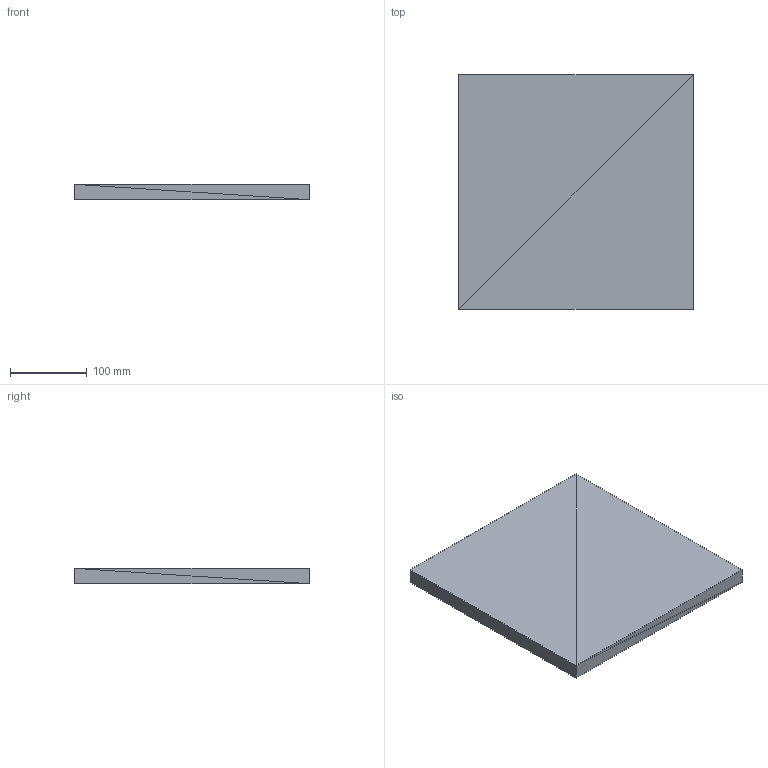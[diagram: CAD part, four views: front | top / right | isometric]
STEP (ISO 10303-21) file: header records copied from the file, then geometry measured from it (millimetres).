
FILE_DESCRIPTION(('ISINAC STEP AP214'),'2;1');
FILE_NAME('ISINAC_C.305_20mm_ADHESIVO','2026-05-03T10:49:19',('ISINAC'),('www.isinac.com'),'ISINAC BIM Generator 1.0','','');
FILE_SCHEMA(('AUTOMOTIVE_DESIGN'));
Length unit declared in the file: millimetre
Products named in the file (1): ISINAC_C.305_20mm_ADHESIVO
Bounding box: 305 x 305 x 20 mm (x, y, z)
Surface area: 210450 mm2 (no closed solid volume)
Topology: 0 solids, 12 shells, 12 faces, 36 edges, 36 vertices
Faces by surface type: plane 12
Entity records: 145 total; most frequent: CARTESIAN_POINT 48, DIRECTION 24, POLY_LOOP 12, FACE_OUTER_BOUND 12, AXIS2_PLACEMENT_3D 12, PLANE 12, FACE_SURFACE 12, CLOSED_SHELL 1
